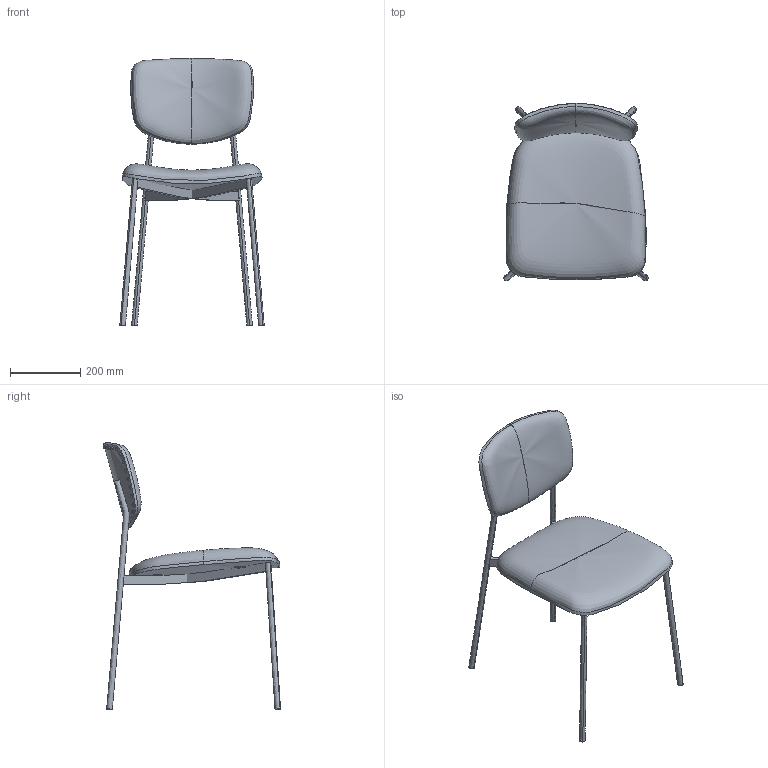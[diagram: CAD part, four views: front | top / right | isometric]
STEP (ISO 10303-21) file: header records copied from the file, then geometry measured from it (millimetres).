
FILE_DESCRIPTION(/* description */ (''),/* implementation_level */ '2;1');
FILE_NAME(/* name */ 'KINOSH~1',/* time_stamp */ '2020-06-03T13:15:52+09:00',/* author */ (''),/* organization */ (''),/* preprocessor_version */ 'ST-DEVELOPER v15',/* originating_system */ '',/* authorisation */ '');
FILE_SCHEMA (('AUTOMOTIVE_DESIGN'));
Length unit declared in the file: millimetre
Products named in the file (1): Document
Bounding box: 410.57 x 504.18 x 759.91 mm (x, y, z)
Volume: 9824002.9 mm3; surface area: 721845.2 mm2
Topology: 12 solids, 52 shells, 158 faces, 430 edges, 244 vertices
Faces by surface type: bspline 144, plane 14
Entity records: 22216 total; most frequent: CARTESIAN_POINT 20205, ORIENTED_EDGE 612, EDGE_CURVE 346, VERTEX_POINT 244, EDGE_LOOP 166, ADVANCED_FACE 158, FACE_OUTER_BOUND 158, B_SPLINE_CURVE_WITH_KNOTS 78
